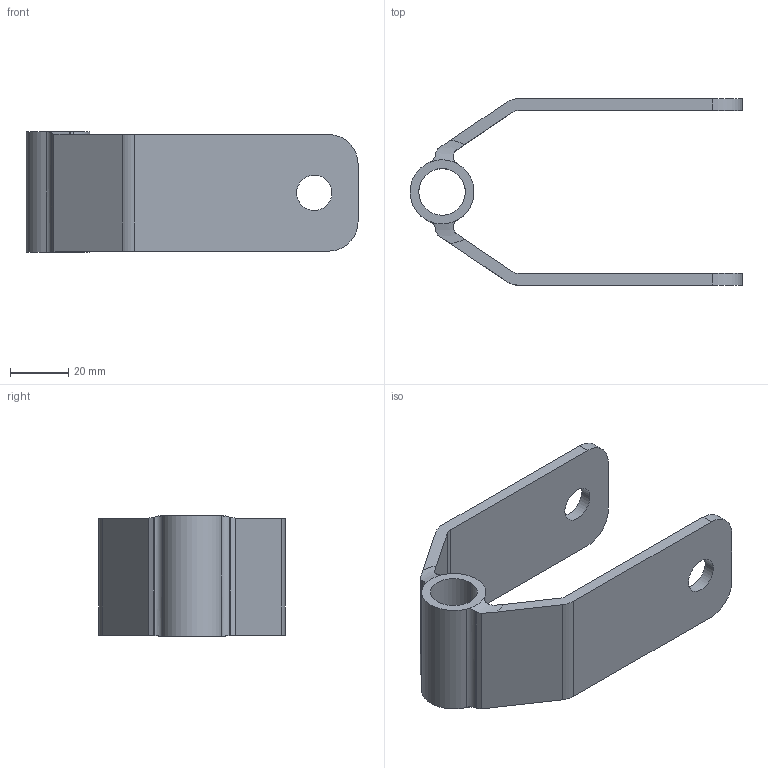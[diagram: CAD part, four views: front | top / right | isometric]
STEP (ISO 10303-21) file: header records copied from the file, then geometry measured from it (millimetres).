
FILE_DESCRIPTION((''),'2;1');
FILE_NAME('FE_RG_ST','2020-03-20T',('pkloninger'),(''),'CREO PARAMETRIC BY PTC INC, 2017020','CREO PARAMETRIC BY PTC INC, 2017020','');
FILE_SCHEMA(('CONFIG_CONTROL_DESIGN'));
Length unit declared in the file: millimetre
Products named in the file (1): FE_RG_ST
Bounding box: 114 x 64 x 41.4 mm (x, y, z)
Volume: 42077.5 mm3; surface area: 24065 mm2
Topology: 1 solids, 1 shells, 44 faces, 118 edges, 76 vertices
Faces by surface type: plane 20, cylinder 20, bspline 4
Entity records: 1570 total; most frequent: CARTESIAN_POINT 444, ORIENTED_EDGE 236, DIRECTION 214, EDGE_CURVE 118, AXIS2_PLACEMENT_3D 80, VERTEX_POINT 76, VECTOR 54, LINE 54
